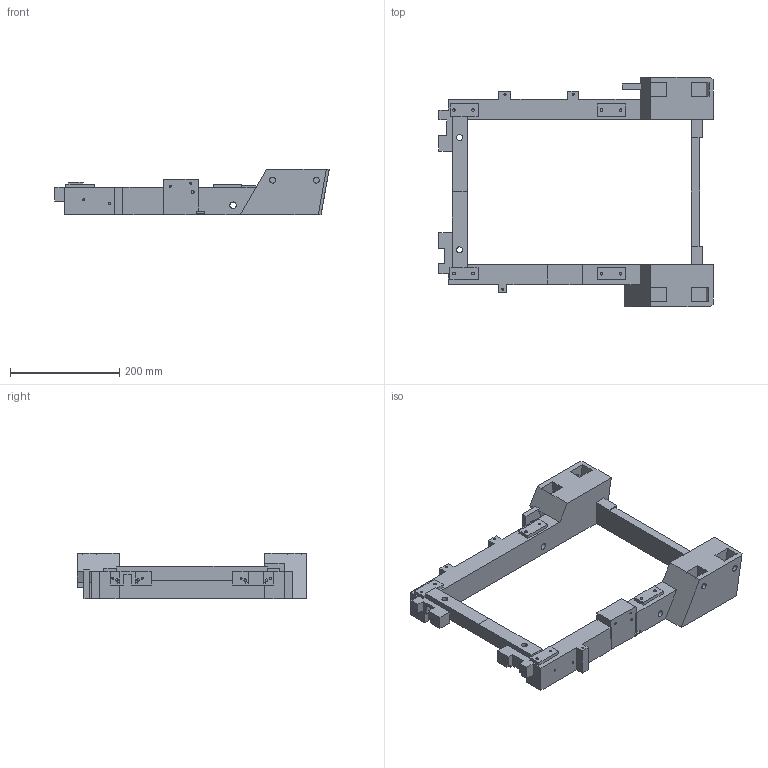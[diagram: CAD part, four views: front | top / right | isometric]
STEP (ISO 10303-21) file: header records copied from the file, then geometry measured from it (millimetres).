
FILE_DESCRIPTION(('CATIA V5 STEP Exchange','CAx-IF Rec.Pracs.--- Model Styling and Organization---1.4--- 2014-01-23'),'2;1');
FILE_NAME('C:\Users\luhaitao\Desktop\塑料件平台项目\样件清单2\16.stp','2025-06-13T04:09:36+00:00',('none'),('none'),'CATIA Version 5-6 Release 2017','CATIA V5 STEP AP214','none');
FILE_SCHEMA(('AUTOMOTIVE_DESIGN { 1 0 10303 214 1 1 1 1 }'));
Length unit declared in the file: millimetre
Products named in the file (1): 16
Bounding box: 501.93 x 420.07 x 83.04 mm (x, y, z)
Volume: 3303088 mm3; surface area: 332571.3 mm2
Topology: 1 solids, 1 shells, 276 faces, 729 edges, 483 vertices
Faces by surface type: plane 188, cylinder 88
Entity records: 8100 total; most frequent: CARTESIAN_POINT 1749, ORIENTED_EDGE 1458, DIRECTION 998, EDGE_CURVE 729, VECTOR 518, LINE 518, VERTEX_POINT 483, EDGE_LOOP 326
